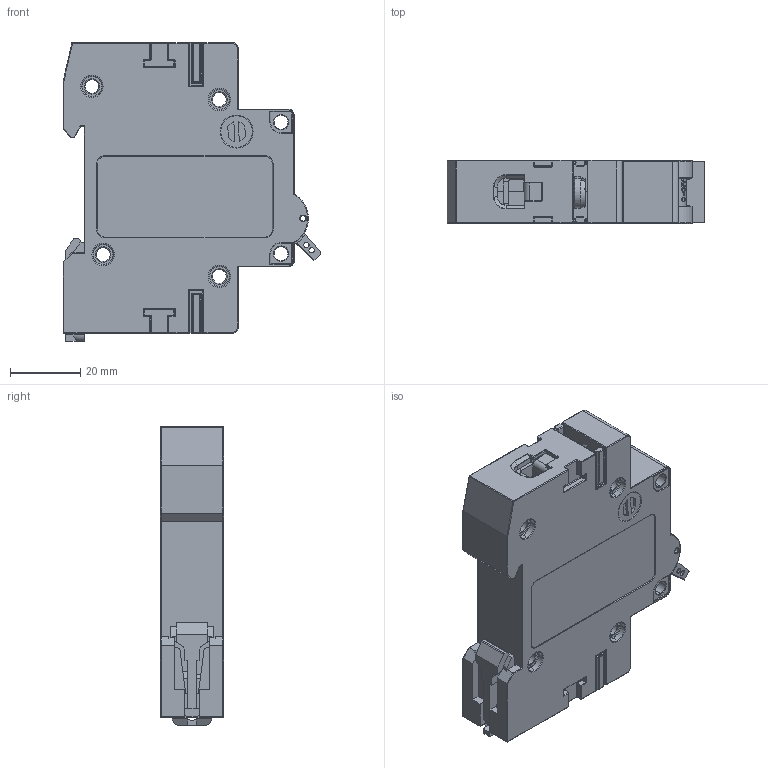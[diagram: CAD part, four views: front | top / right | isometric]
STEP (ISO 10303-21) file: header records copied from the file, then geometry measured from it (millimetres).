
FILE_DESCRIPTION (( 'STEP AP214' ), '1' );
FILE_NAME ('EVOZ1B4.STEP', '2026-06-18T07:31:15', ( '' ), ( '' ), 'SwSTEP 2.0', 'SolidWorks 2025', '' );
FILE_SCHEMA (( 'AUTOMOTIVE_DESIGN' ));
Length unit declared in the file: millimetre
Products named in the file (1): EVOZ1B4
Bounding box: 73.55 x 18 x 85.3 mm (x, y, z)
Volume: 69828.6 mm3; surface area: 33084 mm2
Topology: 6 solids, 18 shells, 2078 faces, 5765 edges, 3783 vertices
Faces by surface type: plane 1164, cylinder 634, torus 169, sphere 44, bspline 36, cone 31
Entity records: 80804 total; most frequent: CARTESIAN_POINT 26663, ORIENTED_EDGE 11434, DIRECTION 10336, EDGE_CURVE 5717, VERTEX_POINT 3783, LINE 3644, VECTOR 3644, AXIS2_PLACEMENT_3D 3346
